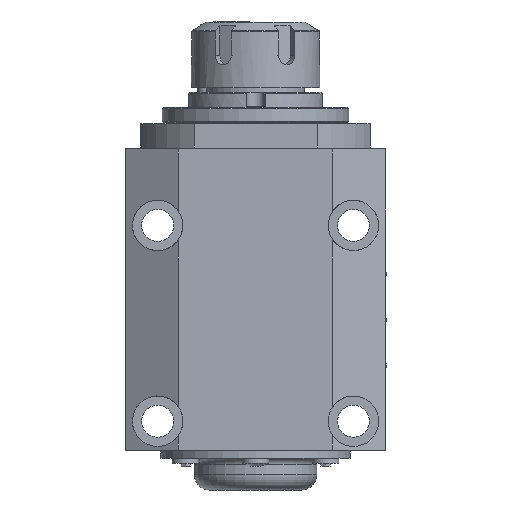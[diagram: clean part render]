
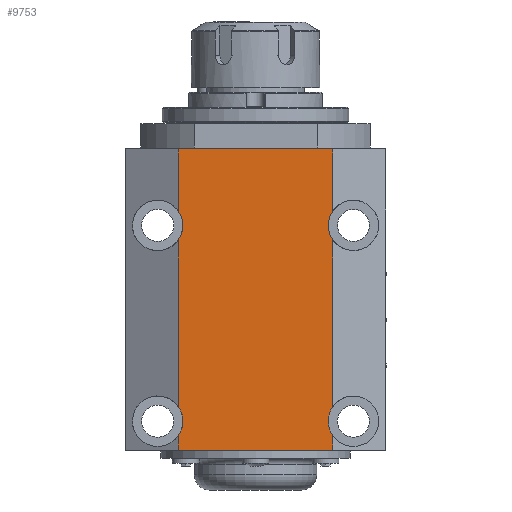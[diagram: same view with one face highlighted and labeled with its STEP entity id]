
A CAD part, front view. The second image highlights one B-rep face of the part: STEP entity #9753.
In plain terms, the highlighted planar face has unit normal (0, -1, 0).
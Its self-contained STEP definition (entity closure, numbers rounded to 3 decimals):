
#559=CIRCLE('',#10782,8.25);
#561=CIRCLE('',#10788,8.25);
#563=CIRCLE('',#10794,8.25);
#565=CIRCLE('',#10796,8.25);
#566=CIRCLE('',#10800,8.25);
#568=CIRCLE('',#10802,8.25);
#1089=FACE_OUTER_BOUND('',#1710,.T.);
#1710=EDGE_LOOP('',(#7429,#7430,#7431,#7432,#7433,#7434,#7435,#7436,#7437,
#7438,#7439,#7440,#7441,#7442));
#2423=LINE('',#16140,#3229);
#2424=LINE('',#16142,#3230);
#2425=LINE('',#16144,#3231);
#2426=LINE('',#16145,#3232);
#2427=LINE('',#16146,#3233);
#2428=LINE('',#16148,#3234);
#2429=LINE('',#16150,#3235);
#2430=LINE('',#16151,#3236);
#3229=VECTOR('',#12724,10.);
#3230=VECTOR('',#12725,10.);
#3231=VECTOR('',#12726,10.);
#3232=VECTOR('',#12727,10.);
#3233=VECTOR('',#12728,10.);
#3234=VECTOR('',#12729,10.);
#3235=VECTOR('',#12730,10.);
#3236=VECTOR('',#12731,10.);
#4167=VERTEX_POINT('',#16096);
#4169=VERTEX_POINT('',#16099);
#4171=VERTEX_POINT('',#16107);
#4173=VERTEX_POINT('',#16110);
#4175=VERTEX_POINT('',#16118);
#4176=VERTEX_POINT('',#16119);
#4177=VERTEX_POINT('',#16121);
#4179=VERTEX_POINT('',#16129);
#4180=VERTEX_POINT('',#16130);
#4181=VERTEX_POINT('',#16132);
#4183=VERTEX_POINT('',#16141);
#4184=VERTEX_POINT('',#16143);
#4185=VERTEX_POINT('',#16147);
#4186=VERTEX_POINT('',#16149);
#5320=EDGE_CURVE('',#4169,#4167,#559,.T.);
#5325=EDGE_CURVE('',#4173,#4171,#561,.T.);
#5330=EDGE_CURVE('',#4177,#4175,#563,.T.);
#5333=EDGE_CURVE('',#4176,#4177,#565,.T.);
#5335=EDGE_CURVE('',#4181,#4179,#566,.T.);
#5338=EDGE_CURVE('',#4180,#4181,#568,.T.);
#5339=EDGE_CURVE('',#4167,#4173,#2423,.T.);
#5340=EDGE_CURVE('',#4171,#4183,#2424,.T.);
#5341=EDGE_CURVE('',#4184,#4183,#2425,.T.);
#5342=EDGE_CURVE('',#4184,#4180,#2426,.T.);
#5343=EDGE_CURVE('',#4179,#4176,#2427,.T.);
#5344=EDGE_CURVE('',#4175,#4185,#2428,.T.);
#5345=EDGE_CURVE('',#4186,#4185,#2429,.T.);
#5346=EDGE_CURVE('',#4186,#4169,#2430,.T.);
#7429=ORIENTED_EDGE('',*,*,#5320,.T.);
#7430=ORIENTED_EDGE('',*,*,#5339,.T.);
#7431=ORIENTED_EDGE('',*,*,#5325,.T.);
#7432=ORIENTED_EDGE('',*,*,#5340,.T.);
#7433=ORIENTED_EDGE('',*,*,#5341,.F.);
#7434=ORIENTED_EDGE('',*,*,#5342,.T.);
#7435=ORIENTED_EDGE('',*,*,#5338,.T.);
#7436=ORIENTED_EDGE('',*,*,#5335,.T.);
#7437=ORIENTED_EDGE('',*,*,#5343,.T.);
#7438=ORIENTED_EDGE('',*,*,#5333,.T.);
#7439=ORIENTED_EDGE('',*,*,#5330,.T.);
#7440=ORIENTED_EDGE('',*,*,#5344,.T.);
#7441=ORIENTED_EDGE('',*,*,#5345,.F.);
#7442=ORIENTED_EDGE('',*,*,#5346,.T.);
#8859=PLANE('',#10804);
#9753=ADVANCED_FACE('',(#1089),#8859,.T.);
#10782=AXIS2_PLACEMENT_3D('',#16100,#12674,#12675);
#10788=AXIS2_PLACEMENT_3D('',#16111,#12687,#12688);
#10794=AXIS2_PLACEMENT_3D('',#16122,#12700,#12701);
#10796=AXIS2_PLACEMENT_3D('',#16126,#12705,#12706);
#10800=AXIS2_PLACEMENT_3D('',#16133,#12713,#12714);
#10802=AXIS2_PLACEMENT_3D('',#16137,#12718,#12719);
#10804=AXIS2_PLACEMENT_3D('',#16139,#12722,#12723);
#12674=DIRECTION('center_axis',(0.,1.,0.));
#12675=DIRECTION('ref_axis',(1.,0.,0.));
#12687=DIRECTION('center_axis',(0.,1.,0.));
#12688=DIRECTION('ref_axis',(1.,0.,0.));
#12700=DIRECTION('center_axis',(0.,1.,0.));
#12701=DIRECTION('ref_axis',(1.,0.,0.));
#12705=DIRECTION('center_axis',(0.,1.,0.));
#12706=DIRECTION('ref_axis',(1.,0.,0.));
#12713=DIRECTION('center_axis',(0.,1.,0.));
#12714=DIRECTION('ref_axis',(1.,0.,0.));
#12718=DIRECTION('center_axis',(0.,1.,0.));
#12719=DIRECTION('ref_axis',(1.,0.,0.));
#12722=DIRECTION('center_axis',(0.,-1.,0.));
#12723=DIRECTION('ref_axis',(1.,0.,0.));
#12724=DIRECTION('',(0.,0.,-1.));
#12725=DIRECTION('',(0.,0.,-1.));
#12726=DIRECTION('',(-1.,0.,0.));
#12727=DIRECTION('',(0.,0.,1.));
#12728=DIRECTION('',(0.,0.,1.));
#12729=DIRECTION('',(0.,0.,1.));
#12730=DIRECTION('',(1.,0.,0.));
#12731=DIRECTION('',(0.,0.,-1.));
#16096=CARTESIAN_POINT('',(-25.25,-54.,27.257));
#16099=CARTESIAN_POINT('',(-25.25,-54.,36.743));
#16100=CARTESIAN_POINT('Origin',(-32.,-54.,32.));
#16107=CARTESIAN_POINT('',(-25.25,-54.,-36.743));
#16110=CARTESIAN_POINT('',(-25.25,-54.,-27.257));
#16111=CARTESIAN_POINT('Origin',(-32.,-54.,-32.));
#16118=CARTESIAN_POINT('',(25.25,-54.,36.743));
#16119=CARTESIAN_POINT('',(25.25,-54.,27.257));
#16121=CARTESIAN_POINT('',(23.75,-54.,32.));
#16122=CARTESIAN_POINT('Origin',(32.,-54.,32.));
#16126=CARTESIAN_POINT('Origin',(32.,-54.,32.));
#16129=CARTESIAN_POINT('',(25.25,-54.,-27.257));
#16130=CARTESIAN_POINT('',(25.25,-54.,-36.743));
#16132=CARTESIAN_POINT('',(23.75,-54.,-32.));
#16133=CARTESIAN_POINT('Origin',(32.,-54.,-32.));
#16137=CARTESIAN_POINT('Origin',(32.,-54.,-32.));
#16139=CARTESIAN_POINT('Origin',(-25.25,-54.,0.));
#16140=CARTESIAN_POINT('',(-25.25,-54.,0.));
#16141=CARTESIAN_POINT('',(-25.25,-54.,-41.5));
#16142=CARTESIAN_POINT('',(-25.25,-54.,0.));
#16143=CARTESIAN_POINT('',(25.25,-54.,-41.5));
#16144=CARTESIAN_POINT('',(-25.25,-54.,-41.5));
#16145=CARTESIAN_POINT('',(25.25,-54.,0.));
#16146=CARTESIAN_POINT('',(25.25,-54.,0.));
#16147=CARTESIAN_POINT('',(25.25,-54.,57.));
#16148=CARTESIAN_POINT('',(25.25,-54.,0.));
#16149=CARTESIAN_POINT('',(-25.25,-54.,57.));
#16150=CARTESIAN_POINT('',(-25.25,-54.,57.));
#16151=CARTESIAN_POINT('',(-25.25,-54.,0.));
